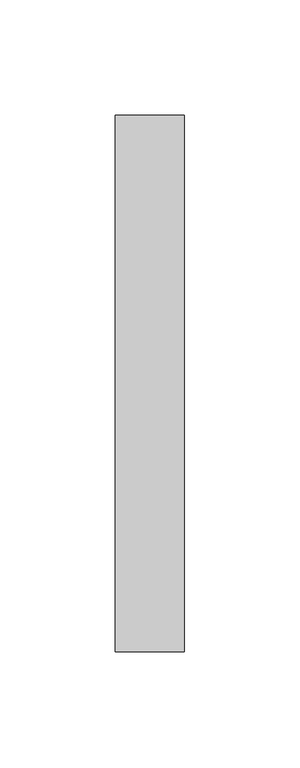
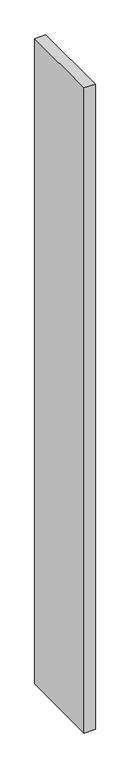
"""IFC4 building model written with IfcOpenShell, lengths in millimetres: furniture geometry, Divisoria_Lateral Fechada : Divisoria_Lateral Fechada_130x180."""

from ifc_helpers import new_model, si_unit, frame, origin, place, context, project, spatial, polyline, outline, extrude, source, transform, mapped, element, save


def furniture_fbb1e78c(model_context):
    return source(origin(), model_context, "Body", "SweptSolid", [
        extrude(outline(polyline([(59.7003264, 50.0), (59.7003264, -182.7633514), (29.7003264, -182.7633514), (29.7003264, 50.0), (59.7003264, 50.0)])), frame((0.0, 0.0, 50.0), z_axis=(0.0, 0.0, 1.0), x_axis=(1.0, 0.0, 0.0)), (0.0, 0.0, 1.0), 1850.0),
    ])


if __name__ == "__main__":
    model = new_model("IFC4")
    model_context = context("Model", 3, world=origin())
    ifc_project = project(units=[si_unit("LENGTHUNIT", "METRE", prefix="MILLI")], contexts=[model_context])
    site = spatial("IfcSite", under=ifc_project)
    building = spatial("IfcBuilding", under=site)
    placement = place(None, origin())
    furniture_shape = furniture_fbb1e78c(model_context)
    element("IfcFurniture", 1, ObjectType="Divisoria_Lateral Fechada : Divisoria_Lateral Fechada_130x180", at=placement, inside=building, context=model_context, shape_type="MappedRepresentation", body=[
        mapped(furniture_shape, transform((0.0, 0.0, 0.0), x_axis=(1.0, 0.0, 0.0), y_axis=(0.0, 1.0, 0.0), z_axis=(0.0, 0.0, 1.0))),
    ])
    save(model, "model.ifc")
